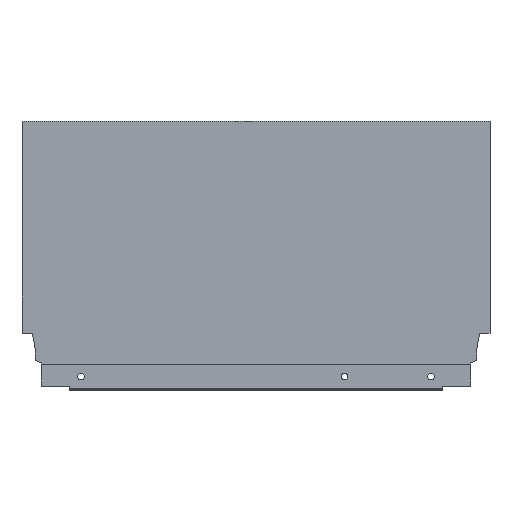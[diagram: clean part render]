
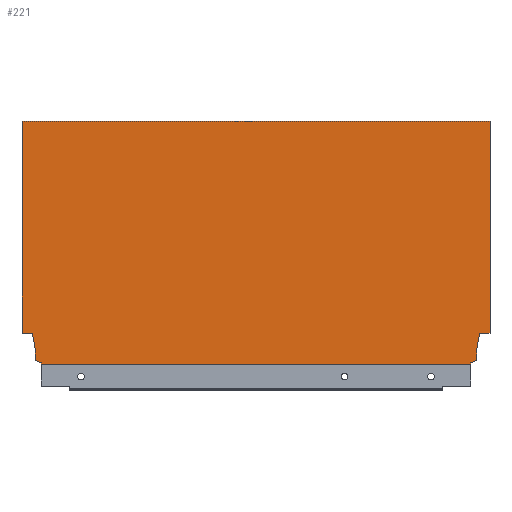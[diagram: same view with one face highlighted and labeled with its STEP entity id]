
A CAD part, top view. The second image highlights one B-rep face of the part: STEP entity #221.
In plain terms, the highlighted planar face has unit normal (0, 0, 1).
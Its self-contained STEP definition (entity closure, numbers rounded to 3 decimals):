
#20 = EDGE_CURVE ( 'NONE', #611, #644, #1142, .T. ) ;
#23 = EDGE_CURVE ( 'NONE', #633, #689, #1140, .T. ) ;
#24 = EDGE_CURVE ( 'NONE', #639, #633, #1139, .T. ) ;
#25 = EDGE_CURVE ( 'NONE', #604, #639, #1475, .T. ) ;
#26 = EDGE_CURVE ( 'NONE', #644, #604, #1134, .T. ) ;
#27 = EDGE_CURVE ( 'NONE', #643, #631, #1132, .T. ) ;
#28 = EDGE_CURVE ( 'NONE', #689, #636, #1130, .T. ) ;
#144 = EDGE_CURVE ( 'NONE', #629, #634, #1478, .T. ) ;
#147 = EDGE_CURVE ( 'NONE', #629, #636, #1483, .T. ) ;
#148 = EDGE_CURVE ( 'NONE', #622, #620, #1481, .T. ) ;
#149 = EDGE_CURVE ( 'NONE', #631, #622, #1487, .T. ) ;
#150 = EDGE_CURVE ( 'NONE', #628, #620, #1489, .T. ) ;
#151 = EDGE_CURVE ( 'NONE', #634, #643, #1491, .T. ) ;
#153 = EDGE_CURVE ( 'NONE', #628, #611, #1447, .T. ) ;
#169 = AXIS2_PLACEMENT_3D ( 'NONE', #407, #434, #435 ) ;
#221 = ADVANCED_FACE ( 'NONE', ( #1497 ), #414, .T. ) ;
#338 = DIRECTION ( 'NONE',  ( 0., 1., 0. ) ) ;
#339 = CARTESIAN_POINT ( 'NONE',  ( -303.996, 1.146, 7.5 ) ) ;
#366 = CARTESIAN_POINT ( 'NONE',  ( -317., 0., 7.5 ) ) ;
#367 = DIRECTION ( 'NONE',  ( 1., 0., 0. ) ) ;
#368 = CARTESIAN_POINT ( 'NONE',  ( -317., 164.7, 7.5 ) ) ;
#371 = CARTESIAN_POINT ( 'NONE',  ( -308.1, 2.64, 7.5 ) ) ;
#372 = DIRECTION ( 'NONE',  ( -1., 0., 0. ) ) ;
#373 = DIRECTION ( 'NONE',  ( 0., -1., 0. ) ) ;
#374 = CARTESIAN_POINT ( 'NONE',  ( -317., 0., 7.5 ) ) ;
#375 = CARTESIAN_POINT ( 'NONE',  ( -309.94, 21.2, 7.5 ) ) ;
#376 = DIRECTION ( 'NONE',  ( -0.174, 0.985, 0. ) ) ;
#377 = DIRECTION ( 'NONE',  ( -0.94, 0.342, 0. ) ) ;
#407 = CARTESIAN_POINT ( 'NONE',  ( -317., 0., 7.5 ) ) ;
#414 = PLANE ( 'NONE',  #169 ) ;
#416 = DIRECTION ( 'NONE',  ( 1., 0., 0. ) ) ;
#434 = DIRECTION ( 'NONE',  ( 0., 0., 1. ) ) ;
#435 = DIRECTION ( 'NONE',  ( 1., 0., 0. ) ) ;
#506 = CARTESIAN_POINT ( 'NONE',  ( -322., 21.2, 7.5 ) ) ;
#586 = DIRECTION ( 'NONE',  ( 0., -1., 0. ) ) ;
#588 = DIRECTION ( 'NONE',  ( 0., 1., 0. ) ) ;
#589 = CARTESIAN_POINT ( 'NONE',  ( -13.004, 1.146, 7.5 ) ) ;
#590 = DIRECTION ( 'NONE',  ( -1., 0., 0. ) ) ;
#591 = CARTESIAN_POINT ( 'NONE',  ( -308.1, 10.765, 7.5 ) ) ;
#592 = DIRECTION ( 'NONE',  ( -0.174, -0.985, 0. ) ) ;
#593 = CARTESIAN_POINT ( 'NONE',  ( 0., 21.2, 7.5 ) ) ;
#594 = DIRECTION ( 'NONE',  ( 0., -1., 0. ) ) ;
#595 = CARTESIAN_POINT ( 'NONE',  ( -7.06, 21.2, 7.5 ) ) ;
#596 = DIRECTION ( 'NONE',  ( -0.94, -0.342, 0. ) ) ;
#597 = CARTESIAN_POINT ( 'NONE',  ( -8.9, 10.765, 7.5 ) ) ;
#598 = DIRECTION ( 'NONE',  ( 0., -1., 0. ) ) ;
#599 = CARTESIAN_POINT ( 'NONE',  ( -8.9, 2.64, 7.5 ) ) ;
#604 = VERTEX_POINT ( 'NONE', #873 ) ;
#611 = VERTEX_POINT ( 'NONE', #880 ) ;
#620 = VERTEX_POINT ( 'NONE', #890 ) ;
#622 = VERTEX_POINT ( 'NONE', #891 ) ;
#628 = VERTEX_POINT ( 'NONE', #901 ) ;
#629 = VERTEX_POINT ( 'NONE', #902 ) ;
#631 = VERTEX_POINT ( 'NONE', #847 ) ;
#633 = VERTEX_POINT ( 'NONE', #846 ) ;
#634 = VERTEX_POINT ( 'NONE', #844 ) ;
#636 = VERTEX_POINT ( 'NONE', #842 ) ;
#639 = VERTEX_POINT ( 'NONE', #784 ) ;
#643 = VERTEX_POINT ( 'NONE', #832 ) ;
#644 = VERTEX_POINT ( 'NONE', #837 ) ;
#689 = VERTEX_POINT ( 'NONE', #827 ) ;
#690 = CARTESIAN_POINT ( 'NONE',  ( 0., 0., 7.5 ) ) ;
#784 = CARTESIAN_POINT ( 'NONE',  ( -8.9, 10.765, 7.5 ) ) ;
#827 = CARTESIAN_POINT ( 'NONE',  ( -13.004, 1.146, 7.5 ) ) ;
#832 = CARTESIAN_POINT ( 'NONE',  ( -308.1, 2.64, 7.5 ) ) ;
#837 = CARTESIAN_POINT ( 'NONE',  ( 0., 21.2, 7.5 ) ) ;
#842 = CARTESIAN_POINT ( 'NONE',  ( -13.004, 0., 7.5 ) ) ;
#844 = CARTESIAN_POINT ( 'NONE',  ( -303.996, 1.146, 7.5 ) ) ;
#846 = CARTESIAN_POINT ( 'NONE',  ( -8.9, 2.64, 7.5 ) ) ;
#847 = CARTESIAN_POINT ( 'NONE',  ( -308.1, 10.765, 7.5 ) ) ;
#873 = CARTESIAN_POINT ( 'NONE',  ( -7.06, 21.2, 7.5 ) ) ;
#880 = CARTESIAN_POINT ( 'NONE',  ( 0., 164.7, 7.5 ) ) ;
#890 = CARTESIAN_POINT ( 'NONE',  ( -317., 21.2, 7.5 ) ) ;
#891 = CARTESIAN_POINT ( 'NONE',  ( -309.94, 21.2, 7.5 ) ) ;
#901 = CARTESIAN_POINT ( 'NONE',  ( -317., 164.7, 7.5 ) ) ;
#902 = CARTESIAN_POINT ( 'NONE',  ( -303.996, 0., 7.5 ) ) ;
#1125 = VECTOR ( 'NONE', #586, 1000. ) ;
#1127 = VECTOR ( 'NONE', #588, 1000. ) ;
#1129 = VECTOR ( 'NONE', #590, 1000. ) ;
#1130 = LINE ( 'NONE', #589, #1125 ) ;
#1131 = VECTOR ( 'NONE', #592, 1000. ) ;
#1132 = LINE ( 'NONE', #591, #1127 ) ;
#1133 = VECTOR ( 'NONE', #594, 1000. ) ;
#1134 = LINE ( 'NONE', #593, #1129 ) ;
#1135 = VECTOR ( 'NONE', #596, 1000. ) ;
#1136 = VECTOR ( 'NONE', #598, 1000. ) ;
#1139 = LINE ( 'NONE', #597, #1133 ) ;
#1140 = LINE ( 'NONE', #599, #1135 ) ;
#1142 = LINE ( 'NONE', #690, #1136 ) ;
#1154 = EDGE_LOOP ( 'NONE', ( #1207, #1235, #1231, #1230, #1232, #1233, #1234, #1187, #1219, #1220, #1258, #1213, #1257, #1236 ) ) ;
#1187 = ORIENTED_EDGE ( 'NONE', *, *, #28, .F. ) ;
#1207 = ORIENTED_EDGE ( 'NONE', *, *, #150, .T. ) ;
#1213 = ORIENTED_EDGE ( 'NONE', *, *, #26, .F. ) ;
#1219 = ORIENTED_EDGE ( 'NONE', *, *, #23, .F. ) ;
#1220 = ORIENTED_EDGE ( 'NONE', *, *, #24, .F. ) ;
#1230 = ORIENTED_EDGE ( 'NONE', *, *, #27, .F. ) ;
#1231 = ORIENTED_EDGE ( 'NONE', *, *, #149, .F. ) ;
#1232 = ORIENTED_EDGE ( 'NONE', *, *, #151, .F. ) ;
#1233 = ORIENTED_EDGE ( 'NONE', *, *, #144, .F. ) ;
#1234 = ORIENTED_EDGE ( 'NONE', *, *, #147, .T. ) ;
#1235 = ORIENTED_EDGE ( 'NONE', *, *, #148, .F. ) ;
#1236 = ORIENTED_EDGE ( 'NONE', *, *, #153, .F. ) ;
#1257 = ORIENTED_EDGE ( 'NONE', *, *, #20, .F. ) ;
#1258 = ORIENTED_EDGE ( 'NONE', *, *, #25, .F. ) ;
#1447 = LINE ( 'NONE', #368, #1495 ) ;
#1475 = LINE ( 'NONE', #595, #1131 ) ;
#1478 = LINE ( 'NONE', #339, #1479 ) ;
#1479 = VECTOR ( 'NONE', #338, 1000. ) ;
#1481 = LINE ( 'NONE', #506, #1485 ) ;
#1483 = LINE ( 'NONE', #366, #1484 ) ;
#1484 = VECTOR ( 'NONE', #367, 1000. ) ;
#1485 = VECTOR ( 'NONE', #372, 1000. ) ;
#1487 = LINE ( 'NONE', #375, #1488 ) ;
#1488 = VECTOR ( 'NONE', #376, 1000. ) ;
#1489 = LINE ( 'NONE', #374, #1490 ) ;
#1490 = VECTOR ( 'NONE', #373, 1000. ) ;
#1491 = LINE ( 'NONE', #371, #1492 ) ;
#1492 = VECTOR ( 'NONE', #377, 1000. ) ;
#1495 = VECTOR ( 'NONE', #416, 1000. ) ;
#1497 = FACE_OUTER_BOUND ( 'NONE', #1154, .T. ) ;
